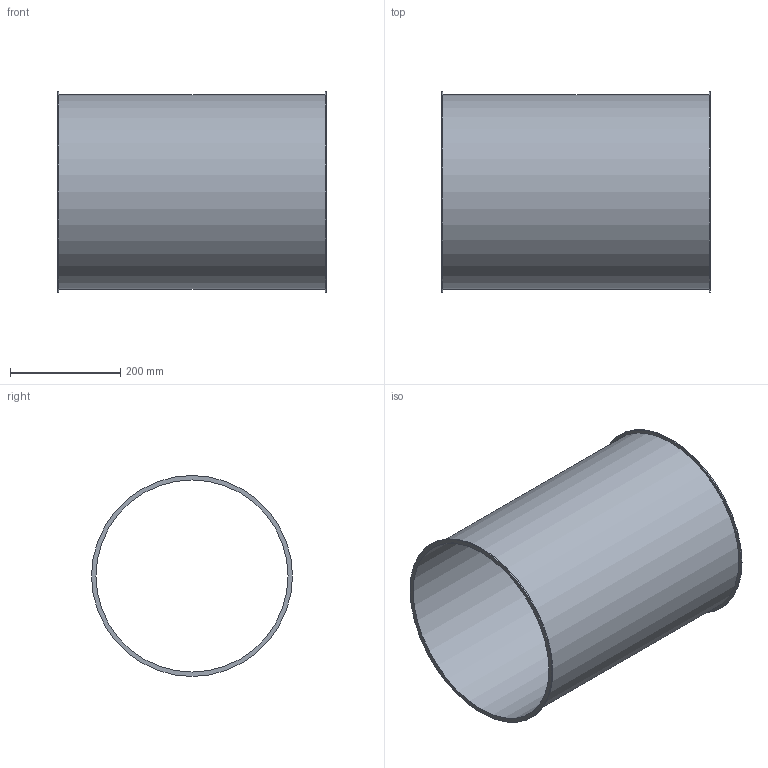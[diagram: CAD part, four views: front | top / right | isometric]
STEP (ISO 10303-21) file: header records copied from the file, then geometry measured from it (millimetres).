
FILE_DESCRIPTION((''),'2;1');
FILE_NAME('U:\Wolfgang\Marcel-3D\fertig\Kapitel 1\3521003.stp','2010-05-31T11:41:33',('TK2'),(''),'Autodesk Inventor 2010','Autodesk Inventor 2010','');
FILE_SCHEMA(('AUTOMOTIVE_DESIGN { 1 0 10303 214 1 1 1 1 }'));
Length unit declared in the file: millimetre
Products named in the file (1): 3521003
Bounding box: 488 x 365 x 365 mm (x, y, z)
Volume: 1103302.2 mm3; surface area: 1107863.8 mm2
Topology: 1 solids, 1 shells, 8 faces, 12 edges, 8 vertices
Faces by surface type: cylinder 4, plane 4
Full cylindrical faces by diameter (mm): 349 x1, 353 x1, 365 x2
Entity records: 194 total; most frequent: DIRECTION 34, CARTESIAN_POINT 25, AXIS2_PLACEMENT_3D 17, ORIENTED_EDGE 16, EDGE_LOOP 16, VERTEX_POINT 8, CIRCLE 8, EDGE_CURVE 8
